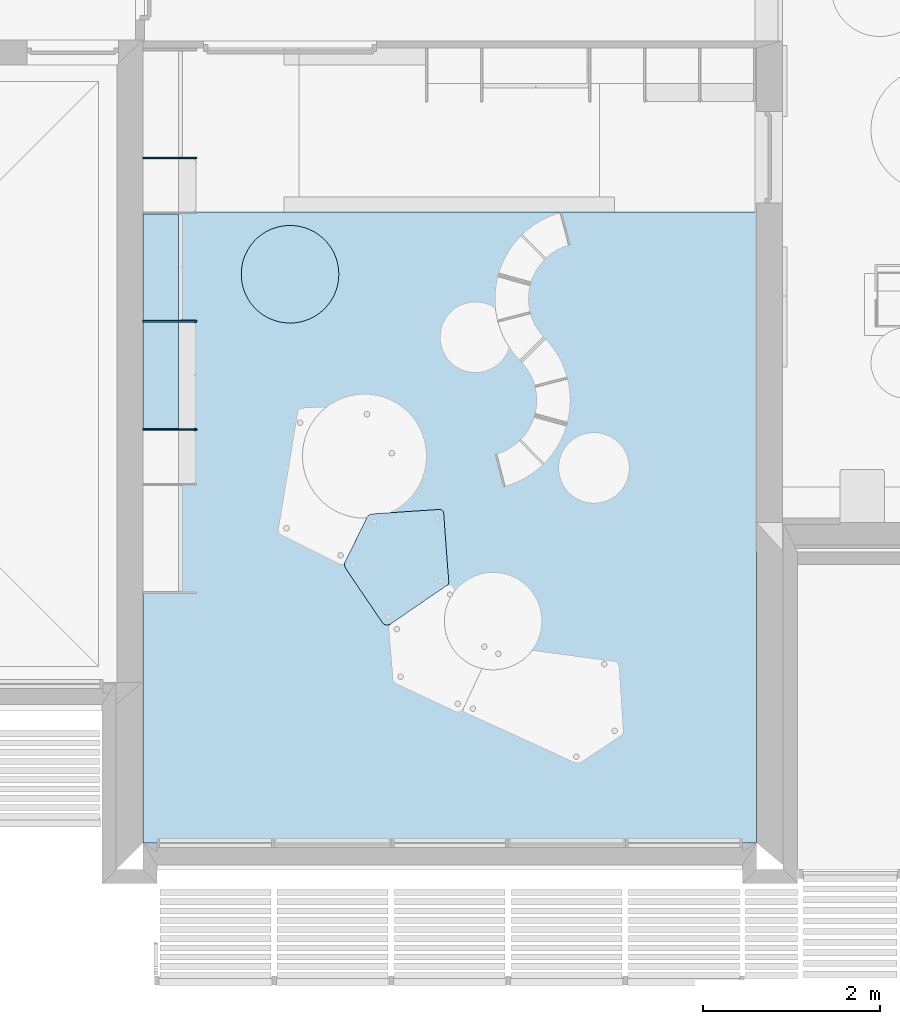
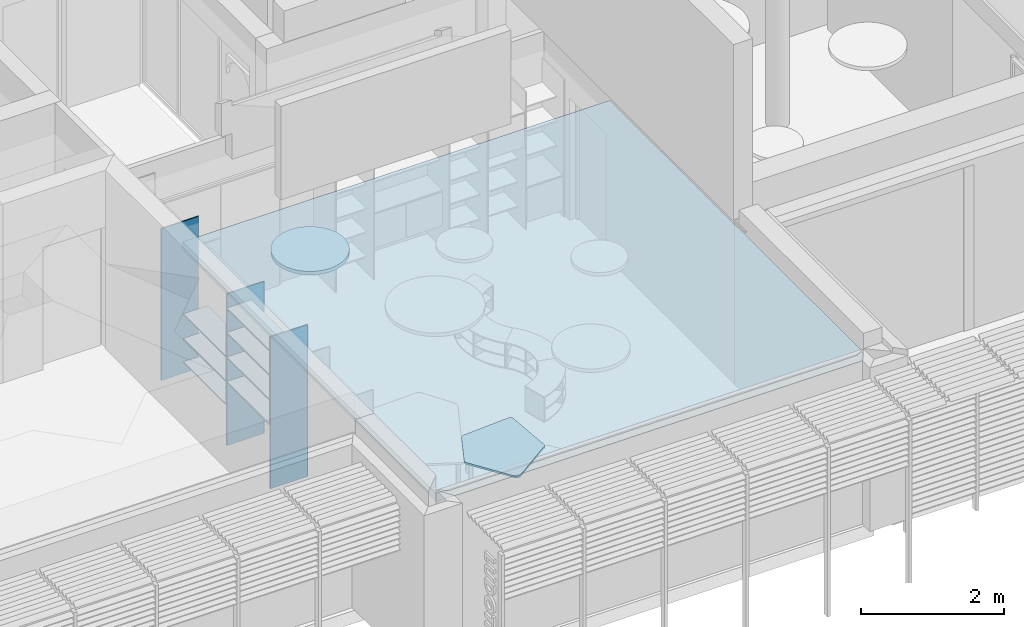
# One storey, part 10 of 64: 14 slabs.
"""IFC2X3 building model written with IfcOpenShell, lengths in metres."""

import ifcopenshell
import ifcopenshell.guid

model = None  # the IFC model being written
_history = None  # IfcOwnerHistory: only IFC2X3 demands one
_inside = {}  # id of a spatial element -> (the spatial element, [elements in it])
_under = {}  # id of a project, library or spatial element -> (it, [spatial elements below it])
_declared = {}  # id of a project -> (the project, [libraries it declares])
_typed = {}  # id of a type object -> (the type object, [elements of that type])
_made_of = {}  # id of a material, layer set ... -> (it, [elements and type objects made of it])


def new_model(schema):
    """Start an empty IFC model of exactly this schema.

    Asked for "IFC4X3", IfcOpenShell would pick the latest addendum, in which some entities
    have other attributes; the version numbers below select the first issue.
    IFC2X3 requires an IfcOwnerHistory on every rooted entity: one is made here for all.
    """
    global model, _history
    if schema == "IFC4X3":
        model = ifcopenshell.file(schema_version=(4, 3, 0, 0))
    else:
        model = ifcopenshell.file(schema=schema)
    _inside.clear()
    _under.clear()
    _declared.clear()
    _typed.clear()
    _made_of.clear()
    _history = None
    if model.schema == "IFC2X3":
        org = make("IfcOrganization", Name="unknown")
        user = make(
            "IfcPersonAndOrganization",
            ThePerson=make("IfcPerson", FamilyName="unknown"),
            TheOrganization=org,
        )
        app = make(
            "IfcApplication",
            ApplicationDeveloper=org,
            Version="unknown",
            ApplicationFullName="unknown",
            ApplicationIdentifier="unknown",
        )
        _history = make(
            "IfcOwnerHistory",
            OwningUser=user,
            OwningApplication=app,
            ChangeAction="ADDED",
            CreationDate=0,
        )
    return model


def make(cls, **values):
    """One entity of the class cls with the attributes given. An attribute that is None is left unset."""
    return model.create_entity(
        cls, **{name: value for name, value in values.items() if value is not None}
    )


def entity(cls, *values):
    """Any entity or typed value of the class cls, its attributes in the order of the schema. None: left unset."""
    e = model.create_entity(cls)
    for i, value in enumerate(values):
        if value is not None:
            e[i] = value
    return e


def rooted(cls, **values):
    """An entity with a GlobalId (a new one), such as an element, a storey or a relation."""
    return make(cls, GlobalId=ifcopenshell.guid.new(), OwnerHistory=_history, **values)


def si_unit(unit_type, name, prefix=None):
    """IfcSIUnit, for example si_unit("LENGTHUNIT", "METRE", prefix="MILLI")."""
    return make("IfcSIUnit", UnitType=unit_type, Prefix=prefix, Name=name)


def converted_unit(unit_type, name, factor, base, dimensions=None, offset=None):
    """IfcConversionBasedUnit, such as the inch: factor (a typed value) times the base unit."""
    return make(
        "IfcConversionBasedUnit"
        if offset is None
        else "IfcConversionBasedUnitWithOffset",
        ConversionOffset=offset,
        Dimensions=None
        if dimensions is None
        else entity("IfcDimensionalExponents", *dimensions),
        UnitType=unit_type,
        Name=name,
        ConversionFactor=make(
            "IfcMeasureWithUnit", ValueComponent=factor, UnitComponent=base
        ),
    )


def derived_unit(unit_type, elements):
    """IfcDerivedUnit: a product of units, each with its exponent."""
    return make(
        "IfcDerivedUnit",
        Elements=[
            make("IfcDerivedUnitElement", Unit=unit, Exponent=power)
            for unit, power in elements
        ],
        UnitType=unit_type,
    )


def assignment(units):
    """IfcUnitAssignment: the units of a project."""
    return None if units is None else make("IfcUnitAssignment", Units=units)


def point(xyz):
    """IfcCartesianPoint."""
    return None if xyz is None else make("IfcCartesianPoint", Coordinates=xyz)


def direction(xyz):
    """IfcDirection."""
    return None if xyz is None else make("IfcDirection", DirectionRatios=xyz)


def frame(location, z_axis=None, x_axis=None):
    """IfcAxis2Placement3D, a coordinate frame: its origin and axes. An axis left out is left unset."""
    return make(
        "IfcAxis2Placement3D",
        Location=point(location),
        Axis=direction(z_axis),
        RefDirection=direction(x_axis),
    )


def frame_2d(location, x_axis=None):
    """IfcAxis2Placement2D, a coordinate frame in the plane: its origin and x axis."""
    return make(
        "IfcAxis2Placement2D", Location=point(location), RefDirection=direction(x_axis)
    )


def origin():
    """The frame at (0, 0, 0) with its axes left unset."""
    return frame((0.0, 0.0, 0.0))


def origin_2d_with_axis():
    """The frame at (0, 0) in the plane with the x axis (1, 0) written out."""
    return frame_2d((0.0, 0.0), x_axis=(1.0, 0.0))


def place(relative_to, where):
    """IfcLocalPlacement: puts the frame where relative to a parent placement (None: the world)."""
    return make(
        "IfcLocalPlacement", PlacementRelTo=relative_to, RelativePlacement=where
    )


def context(
    kind, dimensions, precision=None, world=None, true_north=None, identifier=None
):
    """IfcGeometricRepresentationContext, for example the 3D "Model" context."""
    return make(
        "IfcGeometricRepresentationContext",
        ContextIdentifier=identifier,
        ContextType=kind,
        CoordinateSpaceDimension=dimensions,
        Precision=precision,
        WorldCoordinateSystem=world,
        TrueNorth=true_north,
    )


def subcontext(parent, identifier, kind, view, scale=None):
    """IfcGeometricRepresentationSubContext, for example "Body" below "Model"."""
    return make(
        "IfcGeometricRepresentationSubContext",
        ContextIdentifier=identifier,
        ContextType=kind,
        ParentContext=parent,
        TargetScale=scale,
        TargetView=view,
    )


def project(units=None, contexts=None):
    """IfcProject with its units and contexts."""
    return rooted(
        "IfcProject",
        Name="project",
        RepresentationContexts=contexts,
        UnitsInContext=assignment(units),
    )


def spatial(cls, under=None, at=None, **own):
    """A site, building, storey or space (cls), placed at a placement, below another one or the project."""
    s = rooted(cls, ObjectPlacement=at, **own)
    if under is not None:
        _under.setdefault(under.id(), (under, []))[1].append(s)
    return s


def polyline(points):
    """IfcPolyline through the points."""
    return make("IfcPolyline", Points=[point(p) for p in points])


def circle_curve(where, radius):
    """IfcCircle in the frame where."""
    return make("IfcCircle", Position=where, Radius=radius)


def parameter(value):
    """IfcParameterValue: where a trimmed curve begins or ends, as a parameter of its basis curve."""
    return model.create_entity("IfcParameterValue", value)


def trimmed(basis, trim1, trim2, sense, master):
    """IfcTrimmedCurve: the piece of a basis curve between two trims."""
    return make(
        "IfcTrimmedCurve",
        BasisCurve=basis,
        Trim1=trim1,
        Trim2=trim2,
        SenseAgreement=sense,
        MasterRepresentation=master,
    )


def segment(curve, same_sense, transition):
    """IfcCompositeCurveSegment."""
    return make(
        "IfcCompositeCurveSegment",
        Transition=transition,
        SameSense=same_sense,
        ParentCurve=curve,
    )


def composite_curve(segments, self_intersect=None):
    """IfcCompositeCurve: segments joined end to end."""
    return make("IfcCompositeCurve", Segments=segments, SelfIntersect=self_intersect)


def profile(cls, at=None, kind="AREA", **sizes):
    """A parametric profile (cls). Its sizes go by their IFC names, for example OverallWidth=200.0."""
    return make(cls, ProfileType=kind, Position=at, **sizes)


def rectangle(**sizes):
    """IfcRectangleProfileDef."""
    return profile("IfcRectangleProfileDef", **sizes)


def circle(**sizes):
    """IfcCircleProfileDef."""
    return profile("IfcCircleProfileDef", **sizes)


def outline(outer, holes=None, kind="AREA"):
    """IfcArbitraryClosedProfileDef: a profile drawn as a closed curve; with holes, ...WithVoids."""
    if holes is None:
        return make("IfcArbitraryClosedProfileDef", ProfileType=kind, OuterCurve=outer)
    return make(
        "IfcArbitraryProfileDefWithVoids",
        ProfileType=kind,
        OuterCurve=outer,
        InnerCurves=holes,
    )


def extrude(swept, where, along, depth):
    """IfcExtrudedAreaSolid: the profile swept, set in the frame where, extruded along a direction by depth."""
    return make(
        "IfcExtrudedAreaSolid",
        SweptArea=swept,
        Position=where,
        ExtrudedDirection=direction(along),
        Depth=depth,
    )


def shape(context_of_items, identifier, shape_type, items):
    """IfcShapeRepresentation: the items that make up one representation, for example the "Body"."""
    return make(
        "IfcShapeRepresentation",
        ContextOfItems=context_of_items,
        RepresentationIdentifier=identifier,
        RepresentationType=shape_type,
        Items=items,
    )


def material(Name=None, Category=None):
    """IfcMaterial."""
    return make("IfcMaterial", Name=Name, Category=Category)


def layer(
    of_material, thickness, ventilated=None, Name=None, Category=None, Priority=None
):
    """IfcMaterialLayer: one layer of a wall or slab, of a material (None: an air gap)."""
    return make(
        "IfcMaterialLayer",
        Material=of_material,
        LayerThickness=thickness,
        IsVentilated=ventilated,
        Name=Name,
        Category=Category,
        Priority=Priority,
    )


def layer_set(layers, Name=None):
    """IfcMaterialLayerSet."""
    return make("IfcMaterialLayerSet", MaterialLayers=layers, LayerSetName=Name)


def layer_usage(for_layer_set, set_direction, sense, offset, extent=None):
    """IfcMaterialLayerSetUsage: how a layer set lies in its element."""
    return make(
        "IfcMaterialLayerSetUsage",
        ForLayerSet=for_layer_set,
        LayerSetDirection=set_direction,
        DirectionSense=sense,
        OffsetFromReferenceLine=offset,
        ReferenceExtent=extent,
    )


def made_of(thing, what):
    """Note that an element or type object is made of a material, layer set ...; save() writes the relation."""
    if what is not None:
        _made_of.setdefault(what.id(), (what, []))[1].append(thing)
    return thing


def type_object(cls, material=None, **own):
    """A type object (cls), such as IfcWallType, which elements share."""
    return made_of(rooted(cls, **own), material)


def element(
    cls,
    number,
    at=None,
    inside=None,
    cuts=None,
    type_object=None,
    material=None,
    context=None,
    identifier="Body",
    shape_type=None,
    held_by="IfcProductDefinitionShape",
    body=None,
    shapes=None,
    **own,
):
    """One element of the class cls, such as IfcWall. Its Tag is "e" and its number.

    at: its placement. inside: the storey or other place that contains it. cuts: it is an
    opening in that element (IfcRelVoidsElement). A single representation is given by context,
    identifier, shape_type and body (its items); several are given by shapes. held_by: the class
    of the entity that holds the representations. save() writes the other relations.
    """
    e = rooted(cls, Tag="e%d" % number, ObjectPlacement=at, **own)
    if body is not None:
        shapes = [shape(context, identifier, shape_type, body)]
    if shapes is not None:
        e.Representation = make(held_by, Representations=shapes)
    if inside is not None:
        _inside.setdefault(inside.id(), (inside, []))[1].append(e)
    if cuts is not None:
        rooted(
            "IfcRelVoidsElement", RelatingBuildingElement=cuts, RelatedOpeningElement=e
        )
    if type_object is not None:
        _typed.setdefault(type_object.id(), (type_object, []))[1].append(e)
    return made_of(e, material)


def aggregate(whole, parts):
    """IfcRelAggregates: a whole, such as a stair, and the parts it consists of."""
    return rooted("IfcRelAggregates", RelatingObject=whole, RelatedObjects=parts)


def save(model, path):
    """Write the relations noted so far, then the file.

    IfcRelAggregates (storeys below a building ...), IfcRelContainedInSpatialStructure (elements
    in a storey), IfcRelDefinesByType, IfcRelAssociatesMaterial and IfcRelDeclares: one each for
    every whole, place, type object, material and project.
    """
    for whole, parts in _under.values():
        aggregate(whole, parts)
    for where, things in _inside.values():
        rooted(
            "IfcRelContainedInSpatialStructure",
            RelatedElements=things,
            RelatingStructure=where,
        )
    for kind, things in _typed.values():
        rooted("IfcRelDefinesByType", RelatedObjects=things, RelatingType=kind)
    for what, things in _made_of.values():
        rooted("IfcRelAssociatesMaterial", RelatedObjects=things, RelatingMaterial=what)
    for by, libraries in _declared.values():
        rooted("IfcRelDeclares", RelatingContext=by, RelatedDefinitions=libraries)
    model.write(path)


model = new_model("IFC2X3")

# Units and contexts
model_context = context("Model", 3, precision=1e-05, world=origin(), true_north=direction((6.123031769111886e-17, 1.0)))
body_context = subcontext(model_context, "Body", "Model", "MODEL_VIEW")
ifc_project = project(units=[si_unit("LENGTHUNIT", "METRE"), si_unit("AREAUNIT", "SQUARE_METRE"), si_unit("VOLUMEUNIT", "CUBIC_METRE"), converted_unit("PLANEANGLEUNIT", "DEGREE", entity("IfcRatioMeasure", 0.017453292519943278), si_unit("PLANEANGLEUNIT", "RADIAN"), dimensions=[0, 0, 0, 0, 0, 0, 0]), si_unit("MASSUNIT", "GRAM", prefix="KILO"), derived_unit("MASSDENSITYUNIT", [(si_unit("MASSUNIT", "GRAM", prefix="KILO"), 1), (si_unit("LENGTHUNIT", "METRE"), -3)]), derived_unit("MOMENTOFINERTIAUNIT", [(si_unit("LENGTHUNIT", "METRE"), 4)]), si_unit("TIMEUNIT", "SECOND"), si_unit("FREQUENCYUNIT", "HERTZ"), si_unit("THERMODYNAMICTEMPERATUREUNIT", "DEGREE_CELSIUS"), derived_unit("THERMALTRANSMITTANCEUNIT", [(si_unit("MASSUNIT", "GRAM", prefix="KILO"), 1), (si_unit("THERMODYNAMICTEMPERATUREUNIT", "KELVIN"), -1), (si_unit("TIMEUNIT", "SECOND"), -3)]), derived_unit("THERMALCONDUCTANCEUNIT", [(si_unit("MASSUNIT", "GRAM", prefix="KILO"), 1), (si_unit("LENGTHUNIT", "METRE"), 1), (si_unit("THERMODYNAMICTEMPERATUREUNIT", "KELVIN"), -1), (si_unit("TIMEUNIT", "SECOND"), -3)]), derived_unit("VOLUMETRICFLOWRATEUNIT", [(si_unit("LENGTHUNIT", "METRE"), 3), (si_unit("TIMEUNIT", "SECOND"), -1)]), derived_unit("MASSFLOWRATEUNIT", [(si_unit("MASSUNIT", "GRAM", prefix="KILO"), 1), (si_unit("TIMEUNIT", "SECOND"), -1)]), derived_unit("ROTATIONALFREQUENCYUNIT", [(si_unit("TIMEUNIT", "SECOND"), -1)]), si_unit("ELECTRICCURRENTUNIT", "AMPERE"), si_unit("ELECTRICVOLTAGEUNIT", "VOLT"), si_unit("POWERUNIT", "WATT"), si_unit("FORCEUNIT", "NEWTON", prefix="KILO"), si_unit("ILLUMINANCEUNIT", "LUX"), si_unit("LUMINOUSFLUXUNIT", "LUMEN"), si_unit("LUMINOUSINTENSITYUNIT", "CANDELA"), derived_unit("USERDEFINED", [(si_unit("MASSUNIT", "GRAM", prefix="KILO"), -1), (si_unit("LENGTHUNIT", "METRE"), -2), (si_unit("TIMEUNIT", "SECOND"), 3), (si_unit("LUMINOUSFLUXUNIT", "LUMEN"), 1)]), derived_unit("USERDEFINED", [(si_unit("MASSUNIT", "GRAM", prefix="KILO"), 1), (si_unit("LENGTHUNIT", "METRE"), 3), (si_unit("TIMEUNIT", "SECOND"), -3), (si_unit("ELECTRICCURRENTUNIT", "AMPERE"), -2)]), derived_unit("USERDEFINED", [(si_unit("LENGTHUNIT", "METRE"), 2), (si_unit("TIMEUNIT", "SECOND"), -2)]), derived_unit("SOUNDPOWERUNIT", [(si_unit("MASSUNIT", "GRAM", prefix="KILO"), 1), (si_unit("LENGTHUNIT", "METRE"), 2), (si_unit("TIMEUNIT", "SECOND"), -3)]), derived_unit("SOUNDPRESSUREUNIT", [(si_unit("MASSUNIT", "GRAM", prefix="KILO"), 1), (si_unit("LENGTHUNIT", "METRE"), -1), (si_unit("TIMEUNIT", "SECOND"), -2)]), derived_unit("LINEARVELOCITYUNIT", [(si_unit("LENGTHUNIT", "METRE"), 1), (si_unit("TIMEUNIT", "SECOND"), -1)]), si_unit("PRESSUREUNIT", "PASCAL"), derived_unit("USERDEFINED", [(si_unit("LENGTHUNIT", "METRE"), -2), (si_unit("MASSUNIT", "GRAM", prefix="KILO"), 1), (si_unit("TIMEUNIT", "SECOND"), -2)]), derived_unit("LINEARFORCEUNIT", [(si_unit("MASSUNIT", "GRAM", prefix="KILO"), 1), (si_unit("LENGTHUNIT", "METRE"), 1), (si_unit("TIMEUNIT", "SECOND"), -2), (si_unit("LENGTHUNIT", "METRE"), -1)]), derived_unit("PLANARFORCEUNIT", [(si_unit("MASSUNIT", "GRAM", prefix="KILO"), 1), (si_unit("LENGTHUNIT", "METRE"), 1), (si_unit("TIMEUNIT", "SECOND"), -2), (si_unit("LENGTHUNIT", "METRE"), -2)]), derived_unit("SPECIFICHEATCAPACITYUNIT", [(si_unit("LENGTHUNIT", "METRE"), 2), (si_unit("TIMEUNIT", "SECOND"), -2), (si_unit("THERMODYNAMICTEMPERATUREUNIT", "KELVIN"), -1)]), derived_unit("VAPORPERMEABILITYUNIT", [(si_unit("TIMEUNIT", "SECOND"), 1), (si_unit("LENGTHUNIT", "METRE"), -1)]), derived_unit("DYNAMICVISCOSITYUNIT", [(si_unit("MASSUNIT", "GRAM", prefix="KILO"), 1), (si_unit("LENGTHUNIT", "METRE"), -1), (si_unit("TIMEUNIT", "SECOND"), -1)]), derived_unit("THERMALEXPANSIONCOEFFICIENTUNIT", [(si_unit("THERMODYNAMICTEMPERATUREUNIT", "KELVIN"), -1)])], contexts=[model_context])

# Site, building, storey
site_placement = place(None, origin())
site = spatial("IfcSite", under=ifc_project, at=site_placement, Name="Default", CompositionType="ELEMENT")
building_placement = place(site_placement, origin())
building = spatial("IfcBuilding", under=site, at=building_placement, CompositionType="ELEMENT")
storey_placement = place(building_placement, origin())
storey = spatial("IfcBuildingStorey", under=building, at=storey_placement, Name="REZ-DE-CHAUSSÉE", CompositionType="ELEMENT", Elevation=0.0)

# Slabs
ifc_material_1 = material(Name="Isolation - Fibre de verre")
ifc_layer_1 = layer(ifc_material_1, 0.12)
ifc_material_2 = material(Name="Plâtre - Plaques de plâtre")
ifc_layer_2 = layer(ifc_material_2, 0.02)
ifc_layer_set_1 = layer_set([ifc_layer_1, ifc_layer_2], Name="Sol:Dalle-007:1404")
ifc_layer_usage_1 = layer_usage(ifc_layer_set_1, "AXIS3", "POSITIVE", 0.0)
slab_type_1 = type_object("IfcSlabType", Name="Sol:Dalle-007:1404", PredefinedType="FLOOR", material=ifc_layer_set_1)
slab_1_placement = place(storey_placement, origin())
element("IfcSlab", 1, at=slab_1_placement, inside=storey, type_object=slab_type_1, material=ifc_layer_usage_1, Name="Sol:Dalle-007:1404", ObjectType="Sol:Dalle-007:1404", PredefinedType="FLOOR", context=body_context, shape_type="SweptSolid", body=[
    extrude(rectangle(XDim=7.11000000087, YDim=6.920000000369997, at=origin_2d_with_axis()), frame((113.63075228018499, 8.022209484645, 2.74), z_axis=(0.0, 0.0, -1.0), x_axis=(0.0, 1.0, 0.0)), (0.0, 0.0, 1.0), 0.14000000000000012),
])
ifc_material_3 = material(Name="Bois - Pin granuleux horizontal")
ifc_layer_3 = layer(ifc_material_3, 0.02)
ifc_layer_set_2 = layer_set([ifc_layer_3], Name="Sol:Dalle-007:1415")
ifc_layer_usage_2 = layer_usage(ifc_layer_set_2, "AXIS3", "POSITIVE", 0.0)
slab_type_2 = type_object("IfcSlabType", Name="Sol:Dalle-007:1415", PredefinedType="FLOOR", material=ifc_layer_set_2)
slab_2_placement = place(storey_placement, origin())
element("IfcSlab", 2, at=slab_2_placement, inside=storey, type_object=slab_type_2, material=ifc_layer_usage_2, Name="Sol:Dalle-007:1415", ObjectType="Sol:Dalle-007:1415", PredefinedType="FLOOR", context=body_context, shape_type="SweptSolid", body=[
    extrude(rectangle(XDim=1.2000000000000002, YDim=0.400000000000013, at=origin_2d_with_axis()), frame((110.37075228, 10.9572094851, 1.5199999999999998), z_axis=(0.0, 0.0, -1.0), x_axis=(0.0, 1.0, 0.0)), (0.0, 0.0, 1.0), 0.020000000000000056),
])
slab_3_placement = place(storey_placement, origin())
element("IfcSlab", 3, at=slab_3_placement, inside=storey, type_object=slab_type_2, material=ifc_layer_usage_2, Name="Sol:Dalle-007:1415", ObjectType="Sol:Dalle-007:1415", PredefinedType="FLOOR", context=body_context, shape_type="SweptSolid", body=[
    extrude(rectangle(XDim=1.2000000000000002, YDim=0.400000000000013, at=origin_2d_with_axis()), frame((110.37075228, 9.73720948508, 1.1), z_axis=(0.0, 0.0, -1.0), x_axis=(0.0, 1.0, 0.0)), (0.0, 0.0, 1.0), 0.020000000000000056),
])
slab_4_placement = place(storey_placement, origin())
element("IfcSlab", 4, at=slab_4_placement, inside=storey, type_object=slab_type_2, material=ifc_layer_usage_2, Name="Sol:Dalle-007:1415", ObjectType="Sol:Dalle-007:1415", PredefinedType="FLOOR", context=body_context, shape_type="SweptSolid", body=[
    extrude(rectangle(XDim=1.2000000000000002, YDim=0.400000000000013, at=origin_2d_with_axis()), frame((110.37075228, 9.73720948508, 1.5199999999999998), z_axis=(0.0, 0.0, -1.0), x_axis=(0.0, 1.0, 0.0)), (0.0, 0.0, 1.0), 0.020000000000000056),
])
slab_5_placement = place(storey_placement, origin())
element("IfcSlab", 5, at=slab_5_placement, inside=storey, type_object=slab_type_2, material=ifc_layer_usage_2, Name="Sol:Dalle-007:1415", ObjectType="Sol:Dalle-007:1415", PredefinedType="FLOOR", context=body_context, shape_type="SweptSolid", body=[
    extrude(rectangle(XDim=1.2000000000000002, YDim=0.400000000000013, at=origin_2d_with_axis()), frame((110.37075228, 9.73720948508, 1.94), z_axis=(0.0, 0.0, -1.0), x_axis=(0.0, 1.0, 0.0)), (0.0, 0.0, 1.0), 0.020000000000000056),
])
slab_6_placement = place(storey_placement, origin())
element("IfcSlab", 6, at=slab_6_placement, inside=storey, type_object=slab_type_2, material=ifc_layer_usage_2, Name="Sol:Dalle-007:1415", ObjectType="Sol:Dalle-007:1415", PredefinedType="FLOOR", context=body_context, shape_type="SweptSolid", body=[
    extrude(rectangle(XDim=1.2000000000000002, YDim=0.400000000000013, at=origin_2d_with_axis()), frame((110.37075228, 9.73720948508, 2.36), z_axis=(0.0, 0.0, -1.0), x_axis=(0.0, 1.0, 0.0)), (0.0, 0.0, 1.0), 0.020000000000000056),
])
slab_7_placement = place(storey_placement, origin())
element("IfcSlab", 7, at=slab_7_placement, inside=storey, type_object=slab_type_2, material=ifc_layer_usage_2, Name="Sol:Dalle-007:1415", ObjectType="Sol:Dalle-007:1415", PredefinedType="FLOOR", context=body_context, shape_type="SweptSolid", body=[
    extrude(rectangle(XDim=1.2000000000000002, YDim=0.400000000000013, at=origin_2d_with_axis()), frame((110.37075228, 10.9572094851, 1.1), z_axis=(0.0, 0.0, -1.0), x_axis=(0.0, 1.0, 0.0)), (0.0, 0.0, 1.0), 0.020000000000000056),
])
slab_8_placement = place(storey_placement, origin())
element("IfcSlab", 8, at=slab_8_placement, inside=storey, type_object=slab_type_2, material=ifc_layer_usage_2, Name="Sol:Dalle-007:1415", ObjectType="Sol:Dalle-007:1415", PredefinedType="FLOOR", context=body_context, shape_type="SweptSolid", body=[
    extrude(rectangle(XDim=1.2000000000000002, YDim=0.400000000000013, at=origin_2d_with_axis()), frame((110.37075228, 10.9572094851, 0.7), z_axis=(0.0, 0.0, -1.0), x_axis=(0.0, 1.0, 0.0)), (0.0, 0.0, 1.0), 0.020000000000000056),
])
ifc_layer_4 = layer(ifc_material_3, 0.03)
ifc_layer_set_3 = layer_set([ifc_layer_4], Name="Sol:Dalle-007:1417")
ifc_layer_usage_3 = layer_usage(ifc_layer_set_3, "AXIS3", "POSITIVE", 0.0)
slab_type_3 = type_object("IfcSlabType", Name="Sol:Dalle-007:1417", PredefinedType="FLOOR", material=ifc_layer_set_3)
slab_9_placement = place(storey_placement, origin())
element("IfcSlab", 9, at=slab_9_placement, inside=storey, type_object=slab_type_3, material=ifc_layer_usage_3, Name="Sol:Dalle-007:1417", ObjectType="Sol:Dalle-007:1417", PredefinedType="FLOOR", context=body_context, shape_type="SweptSolid", body=[
    extrude(outline(composite_curve([segment(polyline([(-0.31415734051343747, -0.5704062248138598), (0.43324599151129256, -0.5704062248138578)]), True, "CONTINUOUS"), segment(trimmed(circle_curve(frame_2d((0.4352161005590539, -0.4859163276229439), x_axis=(-0.023311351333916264, -0.9997282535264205)), 0.08451286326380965), [parameter(0.0)], [parameter(12.662529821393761)], True, "PARAMETER"), True, "CONTINUOUS"), segment(trimmed(circle_curve(frame_2d((0.44092705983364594, -0.5147286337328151), x_axis=(0.1974556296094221, -0.9803118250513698)), 0.055140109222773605), [parameter(0.0)], [parameter(15.284446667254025)], True, "PARAMETER"), True, "CONTINUOUS"), segment(trimmed(circle_curve(frame_2d((0.4470400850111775, -0.5270679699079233), x_axis=(0.45054477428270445, -0.8927538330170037)), 0.04136983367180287), [parameter(0.0)], [parameter(31.00765593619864)], True, "PARAMETER"), True, "CONTINUOUS"), segment(trimmed(circle_curve(frame_2d((0.44867372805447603, -0.5273110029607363), x_axis=(0.8370519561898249, -0.5471234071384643)), 0.03986365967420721), [parameter(0.0)], [parameter(32.91950332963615)], True, "PARAMETER"), True, "CONTINUOUS"), segment(trimmed(circle_curve(frame_2d((189.5027611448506, -1.3534949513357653), x_axis=(-0.9999904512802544, 0.004370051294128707)), 189.0160298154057), [parameter(359.89575585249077)], [parameter(0.0)], True, "PARAMETER"), False, "CONTINUOUS"), segment(trimmed(circle_curve(frame_2d((79.40585350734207, -0.6415081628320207), x_axis=(-0.9999831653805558, 0.00580249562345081)), 78.91683016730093), [parameter(359.8183560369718)], [parameter(0.0)], True, "PARAMETER"), False, "CONTINUOUS"), segment(trimmed(circle_curve(frame_2d((19.163234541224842, -0.09682462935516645), x_axis=(-0.9999617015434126, 0.008751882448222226)), 18.671749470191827), [parameter(359.7165447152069)], [parameter(0.0)], True, "PARAMETER"), False, "CONTINUOUS"), segment(trimmed(circle_curve(frame_2d((2.2507519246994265, 0.14728789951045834), x_axis=(-0.9999779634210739, 0.0066387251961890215)), 1.7575535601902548), [parameter(359.22706387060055)], [parameter(0.0)], True, "PARAMETER"), False, "CONTINUOUS"), segment(trimmed(circle_curve(frame_2d((2.593407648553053, 0.16627560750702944), x_axis=(-0.9999695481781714, 0.007804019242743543)), 2.0999171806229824), [parameter(358.70242415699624)], [parameter(0.0)], True, "PARAMETER"), False, "CONTINUOUS"), segment(trimmed(circle_curve(frame_2d((0.35840815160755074, 0.23612899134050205), x_axis=(0.9990551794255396, -0.043459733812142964)), 0.13618450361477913), [parameter(0.0)], [parameter(8.862617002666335)], True, "PARAMETER"), True, "CONTINUOUS"), segment(trimmed(circle_curve(frame_2d((0.41089021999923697, 0.24208967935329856), x_axis=(0.9939543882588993, 0.10979377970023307)), 0.08336517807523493), [parameter(0.0)], [parameter(11.170737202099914)], True, "PARAMETER"), True, "CONTINUOUS"), segment(trimmed(circle_curve(frame_2d((0.4459482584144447, 0.2540174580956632), x_axis=(0.9592001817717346, 0.28272780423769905)), 0.04635115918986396), [parameter(0.0)], [parameter(27.754107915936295)], True, "PARAMETER"), True, "CONTINUOUS"), segment(trimmed(circle_curve(frame_2d((0.45745984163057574, 0.2644585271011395), x_axis=(0.7050080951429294, 0.709199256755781)), 0.030823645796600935), [parameter(0.0)], [parameter(25.757769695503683)], True, "PARAMETER"), True, "CONTINUOUS"), segment(trimmed(circle_curve(frame_2d((0.46104318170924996, 0.2761855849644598), x_axis=(0.3493282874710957, 0.9370003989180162)), 0.018574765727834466), [parameter(0.0)], [parameter(17.023527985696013)], True, "PARAMETER"), True, "CONTINUOUS"), segment(polyline([(0.46215213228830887, 0.29472721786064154), (-0.1783197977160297, 0.6729743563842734)]), True, "CONTINUOUS"), segment(trimmed(circle_curve(frame_2d((-0.24756168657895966, 0.5580210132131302), x_axis=(0.5159737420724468, 0.856604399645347)), 0.1341965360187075), [parameter(0.0)], [parameter(12.196889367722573)], True, "PARAMETER"), True, "CONTINUOUS"), segment(trimmed(circle_curve(frame_2d((-0.23218201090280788, 0.6028455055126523), x_axis=(0.3227024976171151, 0.946500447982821)), 0.08680704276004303), [parameter(0.0)], [parameter(14.808281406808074)], True, "PARAMETER"), True, "CONTINUOUS"), segment(trimmed(circle_curve(frame_2d((-0.23053956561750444, 0.6267942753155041), x_axis=(0.07070390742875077, 0.9974973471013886)), 0.06280206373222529), [parameter(0.0)], [parameter(30.781461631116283)], True, "PARAMETER"), True, "CONTINUOUS"), segment(trimmed(circle_curve(frame_2d((-0.23384810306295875, 0.6312280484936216), x_axis=(-0.43471414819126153, 0.9005684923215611)), 0.05736206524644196), [parameter(0.0)], [parameter(34.24963581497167)], True, "PARAMETER"), True, "CONTINUOUS"), segment(trimmed(circle_curve(frame_2d((204.93853953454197, -119.63082315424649), x_axis=(-0.8627197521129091, 0.5056823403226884)), 237.87802762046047), [parameter(0.0)], [parameter(0.08691226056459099)], True, "PARAMETER"), True, "CONTINUOUS"), segment(trimmed(circle_curve(frame_2d((77.01549454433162, -44.9474344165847), x_axis=(-0.8633009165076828, 0.5046895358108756)), 89.75000486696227), [parameter(0.0)], [parameter(0.1627680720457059)], True, "PARAMETER"), True, "CONTINUOUS"), segment(trimmed(circle_curve(frame_2d((14.754988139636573, -8.793259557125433), x_axis=(-0.8645680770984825, 0.5025157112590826)), 17.75351294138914), [parameter(0.0)], [parameter(0.28700061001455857)], True, "PARAMETER"), True, "CONTINUOUS"), segment(trimmed(circle_curve(frame_2d((-0.0303110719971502, -0.31490830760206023), x_axis=(-0.8568205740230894, 0.5156146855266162)), 0.7099700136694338), [parameter(0.0)], [parameter(3.3450477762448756)], True, "PARAMETER"), True, "CONTINUOUS"), segment(trimmed(circle_curve(frame_2d((-0.5934126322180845, -0.015785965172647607), x_axis=(-0.9048798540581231, 0.42566706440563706)), 0.07242816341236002), [parameter(0.0)], [parameter(33.89385408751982)], True, "PARAMETER"), True, "CONTINUOUS"), segment(trimmed(circle_curve(frame_2d((-0.5878834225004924, -0.018239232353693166), x_axis=(-0.9939765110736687, -0.10959331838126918)), 0.07759119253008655), [parameter(0.0)], [parameter(15.111767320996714)], True, "PARAMETER"), True, "CONTINUOUS"), segment(trimmed(circle_curve(frame_2d((-139.0027005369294, -80.30585479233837), x_axis=(0.8649752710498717, 0.5018144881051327)), 159.93818761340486), [parameter(359.90800427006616)], [parameter(0.0)], True, "PARAMETER"), False, "CONTINUOUS"), segment(trimmed(circle_curve(frame_2d((-59.38825967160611, -34.3145679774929), x_axis=(0.8656125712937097, 0.500714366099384)), 67.99441978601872), [parameter(359.84160458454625)], [parameter(0.0)], True, "PARAMETER"), False, "CONTINUOUS"), segment(trimmed(circle_curve(frame_2d((-3.946636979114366, -2.488709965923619), x_axis=(0.8626950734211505, 0.5057244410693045)), 4.067598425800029), [parameter(358.4583862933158)], [parameter(0.0)], True, "PARAMETER"), False, "CONTINUOUS"), segment(trimmed(circle_curve(frame_2d((-0.30751563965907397, -0.48754210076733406), x_axis=(-0.8884664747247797, -0.45894152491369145)), 0.08548733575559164), [parameter(0.0)], [parameter(31.108927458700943)], True, "PARAMETER"), True, "CONTINUOUS"), segment(trimmed(circle_curve(frame_2d((-0.31496049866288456, -0.4973031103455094), x_axis=(-0.5091730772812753, -0.8606641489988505)), 0.07328357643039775), [parameter(0.0)], [parameter(22.127027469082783)], True, "PARAMETER"), True, "CONTINUOUS"), segment(trimmed(circle_curve(frame_2d((-0.3173753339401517, -0.5217056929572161), x_axis=(-0.1719857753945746, -0.9850994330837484)), 0.048806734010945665), [parameter(0.0)], [parameter(13.683743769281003)], True, "PARAMETER"), True, "CONTINUOUS")], self_intersect=False)), frame((113.1107222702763, 7.62718386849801, 0.5900000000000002), z_axis=(0.0, 0.0, -1.0), x_axis=(0.9977383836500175, 0.06721694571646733, 0.0)), (0.0, 0.0, 1.0), 0.030000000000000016),
])
slab_10_placement = place(storey_placement, origin())
element("IfcSlab", 10, at=slab_10_placement, inside=storey, type_object=slab_type_3, material=ifc_layer_usage_3, Name="Sol:Dalle-007:1417", ObjectType="Sol:Dalle-007:1417", PredefinedType="FLOOR", context=body_context, shape_type="SweptSolid", body=[
    extrude(outline(composite_curve([segment(polyline([(-0.3141573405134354, -0.5704062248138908), (0.43324599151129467, -0.5704062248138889)]), True, "CONTINUOUS"), segment(trimmed(circle_curve(frame_2d((0.43521610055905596, -0.4859163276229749), x_axis=(-0.023311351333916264, -0.9997282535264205)), 0.08451286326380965), [parameter(0.0)], [parameter(12.662529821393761)], True, "PARAMETER"), True, "CONTINUOUS"), segment(trimmed(circle_curve(frame_2d((0.440927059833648, -0.5147286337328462), x_axis=(0.1974556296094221, -0.9803118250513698)), 0.055140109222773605), [parameter(0.0)], [parameter(15.284446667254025)], True, "PARAMETER"), True, "CONTINUOUS"), segment(trimmed(circle_curve(frame_2d((0.4470400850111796, -0.5270679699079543), x_axis=(0.45054477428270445, -0.8927538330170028)), 0.04136983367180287), [parameter(0.0)], [parameter(31.00765593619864)], True, "PARAMETER"), True, "CONTINUOUS"), segment(trimmed(circle_curve(frame_2d((0.4486737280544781, -0.5273110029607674), x_axis=(0.8370519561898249, -0.5471234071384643)), 0.03986365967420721), [parameter(0.0)], [parameter(32.91950332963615)], True, "PARAMETER"), True, "CONTINUOUS"), segment(trimmed(circle_curve(frame_2d((189.5027611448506, -1.3534949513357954), x_axis=(-0.9999904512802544, 0.004370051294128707)), 189.0160298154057), [parameter(359.89575585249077)], [parameter(0.0)], True, "PARAMETER"), False, "CONTINUOUS"), segment(trimmed(circle_curve(frame_2d((79.40585350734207, -0.6415081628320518), x_axis=(-0.9999831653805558, 0.00580249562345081)), 78.91683016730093), [parameter(359.8183560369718)], [parameter(0.0)], True, "PARAMETER"), False, "CONTINUOUS"), segment(trimmed(circle_curve(frame_2d((19.163234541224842, -0.09682462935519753), x_axis=(-0.9999617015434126, 0.008751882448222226)), 18.671749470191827), [parameter(359.7165447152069)], [parameter(0.0)], True, "PARAMETER"), False, "CONTINUOUS"), segment(trimmed(circle_curve(frame_2d((2.2507519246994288, 0.14728789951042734), x_axis=(-0.9999779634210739, 0.0066387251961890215)), 1.7575535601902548), [parameter(359.22706387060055)], [parameter(0.0)], True, "PARAMETER"), False, "CONTINUOUS"), segment(trimmed(circle_curve(frame_2d((2.5934076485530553, 0.16627560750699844), x_axis=(-0.9999695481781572, 0.007804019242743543)), 2.0999171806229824), [parameter(358.70242415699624)], [parameter(0.0)], True, "PARAMETER"), False, "CONTINUOUS"), segment(trimmed(circle_curve(frame_2d((0.3584081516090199, 0.2361289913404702), x_axis=(0.9990551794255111, -0.04345973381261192)), 0.13618450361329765), [parameter(0.0)], [parameter(8.862617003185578)], True, "PARAMETER"), True, "CONTINUOUS"), segment(trimmed(circle_curve(frame_2d((0.4108902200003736, 0.2420896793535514), x_axis=(0.9939543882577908, 0.10979377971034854)), 0.08336517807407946), [parameter(0.0)], [parameter(11.170737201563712)], True, "PARAMETER"), True, "CONTINUOUS"), segment(trimmed(circle_curve(frame_2d((0.44594825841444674, 0.25401745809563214), x_axis=(0.9592001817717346, 0.28272780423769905)), 0.04635115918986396), [parameter(0.0)], [parameter(27.754107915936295)], True, "PARAMETER"), True, "CONTINUOUS"), segment(trimmed(circle_curve(frame_2d((0.4574598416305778, 0.26445852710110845), x_axis=(0.7050080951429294, 0.7091992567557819)), 0.030823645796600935), [parameter(0.0)], [parameter(25.757769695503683)], True, "PARAMETER"), True, "CONTINUOUS"), segment(trimmed(circle_curve(frame_2d((0.461043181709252, 0.27618558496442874), x_axis=(0.3493282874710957, 0.9370003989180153)), 0.018574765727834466), [parameter(0.0)], [parameter(17.023527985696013)], True, "PARAMETER"), True, "CONTINUOUS"), segment(polyline([(0.462152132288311, 0.2947272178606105), (-0.17831979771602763, 0.6729743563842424)]), True, "CONTINUOUS"), segment(trimmed(circle_curve(frame_2d((-0.24756168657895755, 0.5580210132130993), x_axis=(0.5159737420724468, 0.8566043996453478)), 0.1341965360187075), [parameter(0.0)], [parameter(12.196889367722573)], True, "PARAMETER"), True, "CONTINUOUS"), segment(trimmed(circle_curve(frame_2d((-0.2321820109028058, 0.6028455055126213), x_axis=(0.3227024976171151, 0.9465004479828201)), 0.08680704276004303), [parameter(0.0)], [parameter(14.808281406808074)], True, "PARAMETER"), True, "CONTINUOUS"), segment(trimmed(circle_curve(frame_2d((-0.23053956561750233, 0.6267942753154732), x_axis=(0.07070390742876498, 0.9974973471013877)), 0.06280206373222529), [parameter(0.0)], [parameter(30.781461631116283)], True, "PARAMETER"), True, "CONTINUOUS"), segment(trimmed(circle_curve(frame_2d((-0.23384810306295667, 0.6312280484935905), x_axis=(-0.43471414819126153, 0.9005684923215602)), 0.05736206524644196), [parameter(0.0)], [parameter(34.24963581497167)], True, "PARAMETER"), True, "CONTINUOUS"), segment(trimmed(circle_curve(frame_2d((204.93853953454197, -119.63082315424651), x_axis=(-0.8627197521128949, 0.5056823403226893)), 237.87802762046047), [parameter(0.0)], [parameter(0.08691226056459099)], True, "PARAMETER"), True, "CONTINUOUS"), segment(trimmed(circle_curve(frame_2d((77.01549454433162, -44.94743441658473), x_axis=(-0.8633009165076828, 0.5046895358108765)), 89.75000486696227), [parameter(0.0)], [parameter(0.1627680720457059)], True, "PARAMETER"), True, "CONTINUOUS"), segment(trimmed(circle_curve(frame_2d((14.754988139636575, -8.793259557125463), x_axis=(-0.8645680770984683, 0.5025157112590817)), 17.75351294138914), [parameter(0.0)], [parameter(0.28700061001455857)], True, "PARAMETER"), True, "CONTINUOUS"), segment(trimmed(circle_curve(frame_2d((-0.03031107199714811, -0.3149083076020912), x_axis=(-0.8568205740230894, 0.515614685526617)), 0.7099700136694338), [parameter(0.0)], [parameter(3.3450477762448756)], True, "PARAMETER"), True, "CONTINUOUS"), segment(trimmed(circle_curve(frame_2d((-0.5934126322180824, -0.015785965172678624), x_axis=(-0.9048798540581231, 0.4256670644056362)), 0.07242816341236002), [parameter(0.0)], [parameter(33.89385408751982)], True, "PARAMETER"), True, "CONTINUOUS"), segment(trimmed(circle_curve(frame_2d((-0.5878834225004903, -0.01823923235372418), x_axis=(-0.9939765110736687, -0.10959331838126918)), 0.07759119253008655), [parameter(0.0)], [parameter(15.111767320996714)], True, "PARAMETER"), True, "CONTINUOUS"), segment(trimmed(circle_curve(frame_2d((-139.0027005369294, -80.3058547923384), x_axis=(0.8649752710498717, 0.5018144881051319)), 159.93818761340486), [parameter(359.90800427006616)], [parameter(0.0)], True, "PARAMETER"), False, "CONTINUOUS"), segment(trimmed(circle_curve(frame_2d((-59.38825967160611, -34.31456797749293), x_axis=(0.8656125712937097, 0.5007143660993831)), 67.99441978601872), [parameter(359.84160458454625)], [parameter(0.0)], True, "PARAMETER"), False, "CONTINUOUS"), segment(trimmed(circle_curve(frame_2d((-3.9466369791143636, -2.48870996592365), x_axis=(0.8626950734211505, 0.5057244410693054)), 4.067598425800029), [parameter(358.4583862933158)], [parameter(0.0)], True, "PARAMETER"), False, "CONTINUOUS"), segment(trimmed(circle_curve(frame_2d((-0.3075156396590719, -0.4875421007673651), x_axis=(-0.8884664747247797, -0.45894152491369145)), 0.08548733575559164), [parameter(0.0)], [parameter(31.108927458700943)], True, "PARAMETER"), True, "CONTINUOUS"), segment(trimmed(circle_curve(frame_2d((-0.31496049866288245, -0.4973031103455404), x_axis=(-0.5091730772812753, -0.8606641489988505)), 0.07328357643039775), [parameter(0.0)], [parameter(22.127027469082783)], True, "PARAMETER"), True, "CONTINUOUS"), segment(trimmed(circle_curve(frame_2d((-0.3173753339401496, -0.5217056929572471), x_axis=(-0.1719857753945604, -0.9850994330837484)), 0.048806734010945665), [parameter(0.0)], [parameter(13.683743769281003)], True, "PARAMETER"), True, "CONTINUOUS")], self_intersect=False)), frame((113.1107222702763, 7.627183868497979, 0.5900000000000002), z_axis=(0.0, 0.0, -1.0), x_axis=(0.9977383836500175, 0.06721694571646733, 0.0)), (0.0, 0.0, 1.0), 0.030000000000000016),
])
ifc_layer_5 = layer(ifc_material_3, 0.06)
ifc_layer_set_4 = layer_set([ifc_layer_5], Name="Sol:Dalle-006:1419")
ifc_layer_usage_4 = layer_usage(ifc_layer_set_4, "AXIS3", "POSITIVE", 0.0)
slab_type_4 = type_object("IfcSlabType", Name="Sol:Dalle-006:1419", PredefinedType="FLOOR", material=ifc_layer_set_4)
slab_11_placement = place(storey_placement, origin())
element("IfcSlab", 11, at=slab_11_placement, inside=storey, type_object=slab_type_4, material=ifc_layer_usage_4, Name="Sol:Dalle-006:1419", ObjectType="Sol:Dalle-006:1419", PredefinedType="FLOOR", context=body_context, shape_type="SweptSolid", body=[
    extrude(circle(Radius=0.5500000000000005, at=frame_2d((-3.411203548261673e-29, 2.1657342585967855e-15), x_axis=(1.0, 0.0))), frame((111.830752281, 10.877209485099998, 2.4599999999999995), z_axis=(0.0, 0.0, -1.0), x_axis=(-1.0, 0.0, 0.0)), (0.0, 0.0, 1.0), 0.059999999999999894),
])
ifc_layer_6 = layer(ifc_material_3, 2.6)
ifc_layer_set_5 = layer_set([ifc_layer_6], Name="Sol:Dalle-006:1522")
ifc_layer_usage_5 = layer_usage(ifc_layer_set_5, "AXIS3", "POSITIVE", 0.0)
slab_type_5 = type_object("IfcSlabType", Name="Sol:Dalle-006:1522", PredefinedType="FLOOR", material=ifc_layer_set_5)
slab_12_placement = place(storey_placement, origin())
element("IfcSlab", 12, at=slab_12_placement, inside=storey, type_object=slab_type_5, material=ifc_layer_usage_5, Name="Sol:Dalle-006:1522", ObjectType="Sol:Dalle-006:1522", PredefinedType="FLOOR", context=body_context, shape_type="SweptSolid", body=[
    extrude(outline(composite_curve([segment(polyline([(-0.009999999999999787, -0.29999999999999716), (0.009999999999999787, -0.29999999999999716)]), True, "CONTINUOUS"), segment(polyline([(0.009999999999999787, -0.29999999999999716), (0.009999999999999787, 0.29999999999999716)]), True, "CONTINUOUS"), segment(trimmed(circle_curve(frame_2d((0.0, 0.29999999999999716), x_axis=(1.0, 0.0)), 0.010000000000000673), [parameter(0.0)], [parameter(180.00000000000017)], True, "PARAMETER"), True, "CONTINUOUS"), segment(polyline([(-0.009999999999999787, 0.29999999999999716), (-0.009999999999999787, -0.29999999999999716)]), True, "CONTINUOUS")], self_intersect=False)), frame((110.47075228, 12.187209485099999, 2.6), z_axis=(0.0, 0.0, -1.0), x_axis=(0.0, 1.0, 0.0)), (0.0, 0.0, 1.0), 2.6),
])
slab_13_placement = place(storey_placement, origin())
element("IfcSlab", 13, at=slab_13_placement, inside=storey, type_object=slab_type_5, material=ifc_layer_usage_5, Name="Sol:Dalle-006:1522", ObjectType="Sol:Dalle-006:1522", PredefinedType="FLOOR", context=body_context, shape_type="SweptSolid", body=[
    extrude(outline(composite_curve([segment(polyline([(-0.010000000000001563, -0.29999999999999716), (0.009999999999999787, -0.29999999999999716)]), True, "CONTINUOUS"), segment(polyline([(0.009999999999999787, -0.29999999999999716), (0.009999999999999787, 0.29999999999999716)]), True, "CONTINUOUS"), segment(trimmed(circle_curve(frame_2d((0.0, 0.29999999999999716), x_axis=(1.0, 0.0)), 0.010000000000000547), [parameter(0.0)], [parameter(180.00000000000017)], True, "PARAMETER"), True, "CONTINUOUS"), segment(polyline([(-0.010000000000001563, 0.29999999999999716), (-0.010000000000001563, -0.29999999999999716)]), True, "CONTINUOUS")], self_intersect=False)), frame((110.47075228, 9.12720948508, 2.6), z_axis=(0.0, 0.0, -1.0), x_axis=(0.0, 1.0, 0.0)), (0.0, 0.0, 1.0), 2.6),
])
slab_14_placement = place(storey_placement, origin())
element("IfcSlab", 14, at=slab_14_placement, inside=storey, type_object=slab_type_5, material=ifc_layer_usage_5, Name="Sol:Dalle-006:1522", ObjectType="Sol:Dalle-006:1522", PredefinedType="FLOOR", context=body_context, shape_type="SweptSolid", body=[
    extrude(outline(composite_curve([segment(polyline([(-0.009999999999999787, -0.29999999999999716), (0.009999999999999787, -0.29999999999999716)]), True, "CONTINUOUS"), segment(polyline([(0.009999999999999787, -0.29999999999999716), (0.009999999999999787, 0.29999999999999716)]), True, "CONTINUOUS"), segment(trimmed(circle_curve(frame_2d((0.0, 0.29999999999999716), x_axis=(1.0, 0.0)), 0.010000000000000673), [parameter(0.0)], [parameter(180.00000000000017)], True, "PARAMETER"), True, "CONTINUOUS"), segment(polyline([(-0.009999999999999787, 0.29999999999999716), (-0.009999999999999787, -0.29999999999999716)]), True, "CONTINUOUS")], self_intersect=False)), frame((110.47075228, 10.347209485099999, 2.6), z_axis=(0.0, 0.0, -1.0), x_axis=(0.0, 1.0, 0.0)), (0.0, 0.0, 1.0), 2.6),
])

save(model, "model.ifc")
